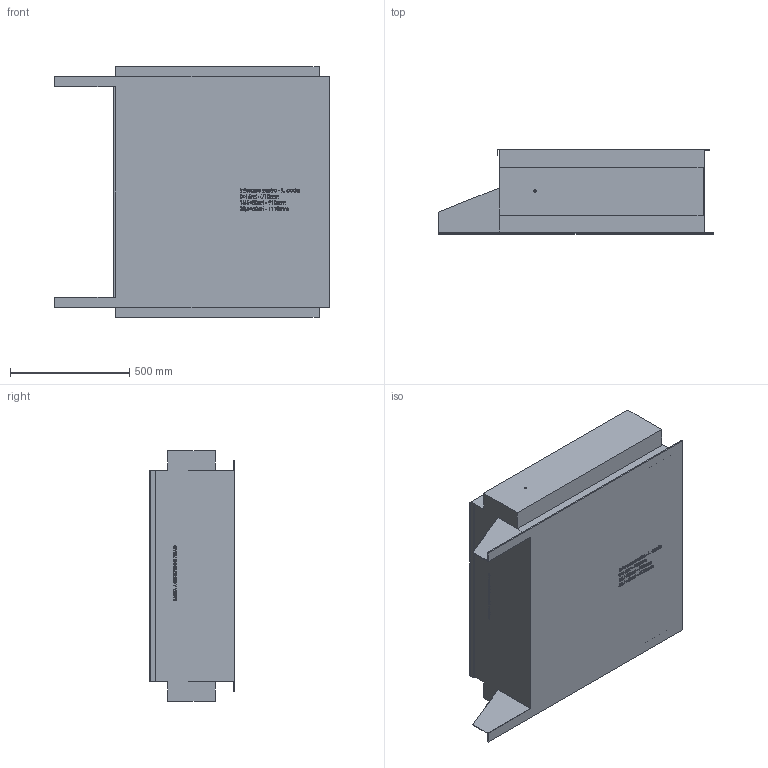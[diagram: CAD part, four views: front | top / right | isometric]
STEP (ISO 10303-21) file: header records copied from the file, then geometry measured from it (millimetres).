
FILE_DESCRIPTION (( 'STEP AP203' ), '1' );
FILE_NAME ('30756.step', '2019-03-14T14:31:56', ( 'PC' ), ( 'Hewlett-Packard Company' ), 'SwSTEP 2.0', 'SolidWorks 2016', '' );
FILE_SCHEMA (( 'CONFIG_CONTROL_DESIGN' ));
Length unit declared in the file: millimetre
Products named in the file (1): 30756
Bounding box: 1150 x 353.5 x 1050 mm (x, y, z)
Volume: 298218514.1 mm3; surface area: 3642996.6 mm2
Topology: 1 solids, 1 shells, 1110 faces, 2964 edges, 1976 vertices
Faces by surface type: plane 679, bspline 429, cylinder 2
Entity records: 57931 total; most frequent: CARTESIAN_POINT 33072, ORIENTED_EDGE 5928, DIRECTION 3474, EDGE_CURVE 2964, VECTOR 2102, LINE 2102, VERTEX_POINT 1976, EDGE_LOOP 1232
